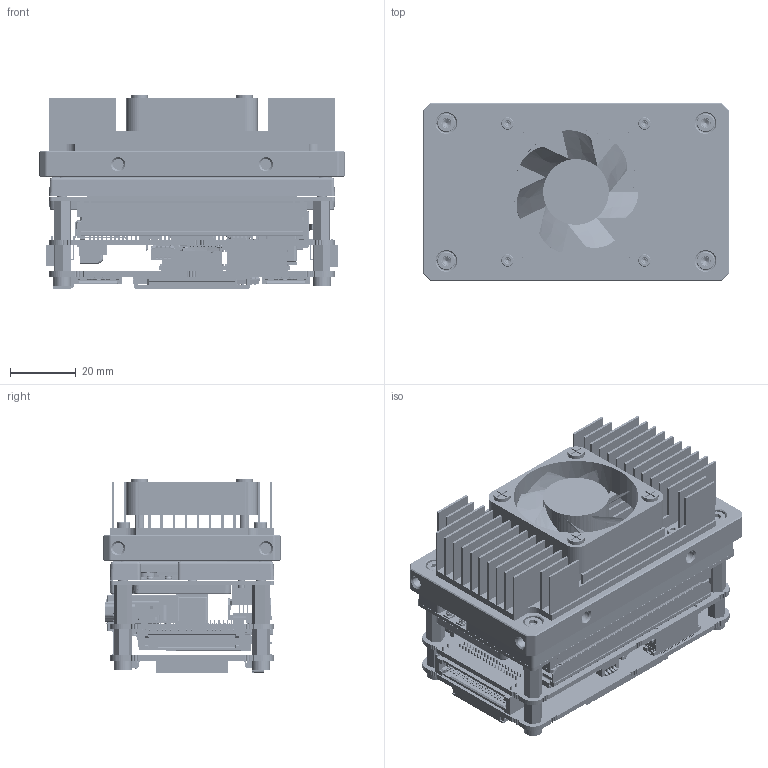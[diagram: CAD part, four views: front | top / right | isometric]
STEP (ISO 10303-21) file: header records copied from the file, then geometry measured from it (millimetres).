
FILE_DESCRIPTION(/* description */ (''),/* implementation_level */ '2;1');
FILE_NAME(/* name */ 'STP-MX-(XEC2-4P-X2G2)-LIGHTWEIGHT-FAN-REV1.stp',/* time_stamp */ '2019-07-30T08:29:46+02:00',/* author */ (''),/* organization */ (''),/* preprocessor_version */ 'ST-DEVELOPER v16',/* originating_system */ 'SIEMENS PLM Software NX 11.0',/* authorisation */ '');
FILE_SCHEMA (('AUTOMOTIVE_DESIGN { 1 0 10303 214 3 1 1 1 }'));
Products named in the file (18): fan-body; SROB-M2X5-IMBUS-STNLS; HSNK-FAN-XHG302; MECH-MD-EMI-GSK-1.5X13-T3; SROB-M2X8-IMBUS-STNLS; MECH-THERM-PAD-10X10X0.2; MECH-THERM-PAD-10X10X1; MECH-HEATSINK-10X10X8; MECH-HEATSINK-10X10X5; SROB-M3.0x6-IMBUS-STNLS; MECH-TX1CB-PHOXI-BRACKET; SROB-M3.0x16-IMBUS-STNLS; STANDOFF-MF-M3x8; STANDOFF-FF-M3x12; PCB-TX2CB-CONN-4P-X2G2-REV2.0; PCB-TX2CB-MAIN-REV2.0; Jetson-TX2; assembly1
Assembly tree (35 placements, depth 2):
  assembly1
    Jetson-TX2
    PCB-TX2CB-MAIN-REV2.0
    PCB-TX2CB-CONN-4P-X2G2-REV2.0
    STANDOFF-FF-M3x12  x4
    STANDOFF-MF-M3x8  x4
    SROB-M3.0x16-IMBUS-STNLS  x4
    MECH-TX1CB-PHOXI-BRACKET
    SROB-M3.0x6-IMBUS-STNLS  x4
    MECH-HEATSINK-10X10X5
    MECH-HEATSINK-10X10X8
    MECH-THERM-PAD-10X10X1  x2
    MECH-THERM-PAD-10X10X0.2  x2
    SROB-M2X8-IMBUS-STNLS  x2
    MECH-MD-EMI-GSK-1.5X13-T3
    HSNK-FAN-XHG302
    SROB-M2X5-IMBUS-STNLS  x4
    fan-body
Bounding box: 93 x 54 x 58.97 mm (x, y, z)
Volume: 133222.4 mm3; surface area: 152894.9 mm2
Topology: 110 solids, 396 shells, 39509 faces, 116934 edges, 78172 vertices
Faces by surface type: plane 29983, cylinder 8474, cone 442, bspline 371, torus 197, sphere 28, extrusion 14
Full cylindrical faces by diameter (mm): 0.457 x70, 0.5 x6, 0.635 x70, 0.7 x9, 0.8 x8, 0.813 x8, 1.1 x2, 1.118 x1, 1.2 x6, 1.3 x12, 1.4 x2, 1.6 x8, 1.7 x2, 2 x12, 2.1 x2, 2.3 x10, 3 x27, 3.2 x4, 3.3 x8, 3.5 x4, 3.6 x4, 3.8 x6, 4.1 x2, 5 x4, 5.5 x12, 6 x4, 20 x7, 38 x1
Entity records: 1497556 total; most frequent: CARTESIAN_POINT 303143, ORIENTED_EDGE 229100, DIRECTION 206930, EDGE_CURVE 115892, VECTOR 93780, LINE 93766, VERTEX_POINT 77590, AXIS2_PLACEMENT_3D 56575
